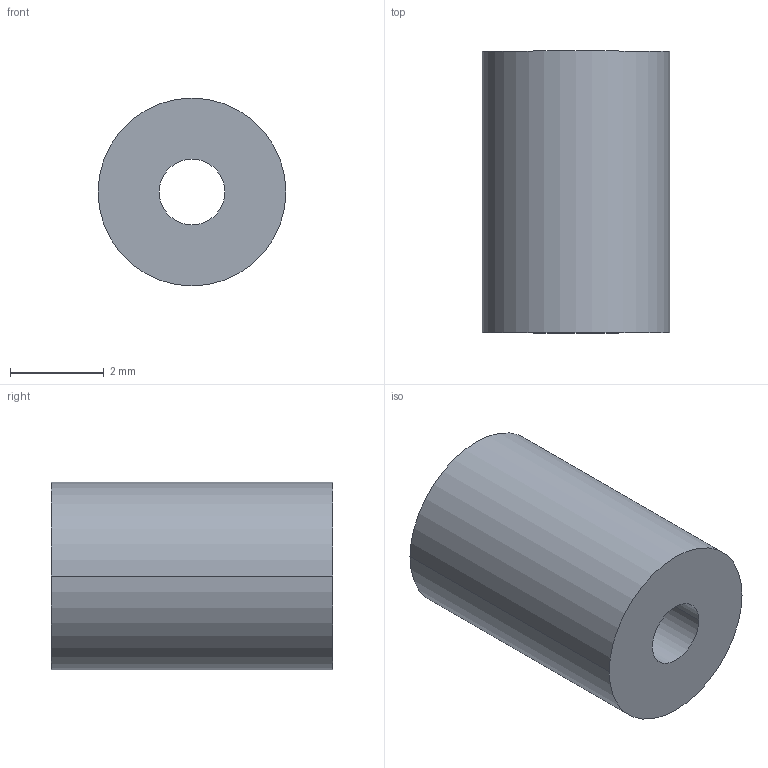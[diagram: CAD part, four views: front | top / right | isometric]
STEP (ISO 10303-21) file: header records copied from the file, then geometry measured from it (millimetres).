
FILE_DESCRIPTION (( 'STEP AP203' ), '1' );
FILE_NAME ('30800.WPP4A1.4.step', '2019-01-23T22:14:27', ( '' ), ( '' ), 'SwSTEP 2.0', 'SolidWorks 2017', '' );
FILE_SCHEMA (( 'CONFIG_CONTROL_DESIGN' ));
Length unit declared in the file: millimetre
Products named in the file (1): 30800.WPP4A1.4
Bounding box: 4 x 6 x 4 mm (x, y, z)
Volume: 64.9 mm3; surface area: 122.4 mm2
Topology: 1 solids, 1 shells, 8 faces, 16 edges, 10 vertices
Faces by surface type: cylinder 4, torus 2, plane 2
Entity records: 297 total; most frequent: DIRECTION 46, CARTESIAN_POINT 35, ORIENTED_EDGE 32, AXIS2_PLACEMENT_3D 21, EDGE_CURVE 16, CIRCLE 12, VERTEX_POINT 10, EDGE_LOOP 10
